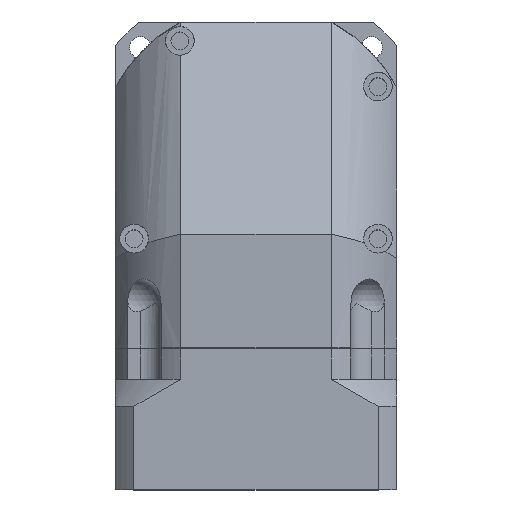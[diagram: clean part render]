
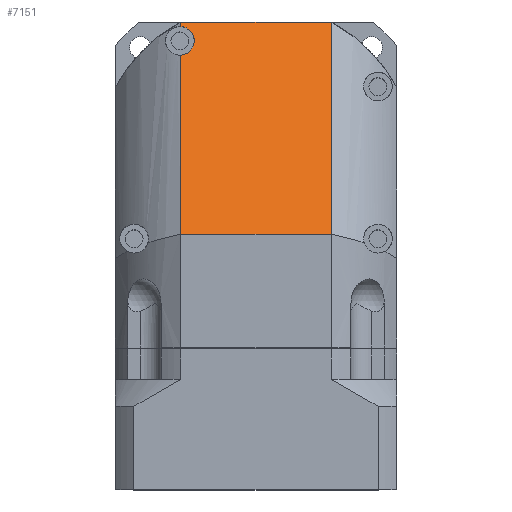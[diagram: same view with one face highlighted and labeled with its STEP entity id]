
A CAD part, top view. The second image highlights one B-rep face of the part: STEP entity #7151.
In plain terms, the highlighted planar face has unit normal (0, 0.643, 0.766) as drawn and (-0.766, -0.643, 0) by its records, which use the part's own axes.
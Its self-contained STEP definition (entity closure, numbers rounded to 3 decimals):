
#2147=DIRECTION('',(0.,0.,-1.));
#2148=VECTOR('',#2147,75.875);
#2149=CARTESIAN_POINT('',(19.,-71.,37.937));
#2150=LINE('',#2149,#2148);
#2504=CARTESIAN_POINT('',(19.,-71.,37.937));
#3230=DIRECTION('',(0.,0.,1.));
#3231=VECTOR('',#3230,75.875);
#3232=CARTESIAN_POINT('',(-71.,36.258,-37.937));
#3233=LINE('',#3232,#3231);
#3234=CARTESIAN_POINT('',(4.945,-54.25,37.937));
#3235=CARTESIAN_POINT('',(4.96,-54.268,37.655));
#3236=CARTESIAN_POINT('',(4.992,-54.306,37.386));
#3237=CARTESIAN_POINT('',(5.055,-54.381,36.931));
#3238=CARTESIAN_POINT('',(5.134,-54.476,36.548));
#3239=CARTESIAN_POINT('',(5.229,-54.589,36.167));
#3240=CARTESIAN_POINT('',(5.356,-54.739,35.744));
#3241=CARTESIAN_POINT('',(5.514,-54.928,35.309));
#3242=CARTESIAN_POINT('',(5.703,-55.154,34.874));
#3243=CARTESIAN_POINT('',(5.893,-55.38,34.499));
#3244=CARTESIAN_POINT('',(6.146,-55.681,34.059));
#3245=CARTESIAN_POINT('',(6.462,-56.058,33.594));
#3246=CARTESIAN_POINT('',(6.842,-56.51,33.132));
#3247=CARTESIAN_POINT('',(7.221,-56.962,32.742));
#3248=CARTESIAN_POINT('',(7.6,-57.414,32.41));
#3249=CARTESIAN_POINT('',(8.106,-58.017,32.035));
#3250=CARTESIAN_POINT('',(8.738,-58.771,31.672));
#3251=CARTESIAN_POINT('',(9.497,-59.675,31.378));
#3252=CARTESIAN_POINT('',(10.256,-60.579,31.207));
#3253=CARTESIAN_POINT('',(11.015,-61.483,31.15));
#3254=CARTESIAN_POINT('',(11.773,-62.388,31.207));
#3255=CARTESIAN_POINT('',(12.532,-63.292,31.378));
#3256=CARTESIAN_POINT('',(13.291,-64.196,31.672));
#3257=CARTESIAN_POINT('',(13.923,-64.95,32.035));
#3258=CARTESIAN_POINT('',(14.429,-65.553,32.41));
#3259=CARTESIAN_POINT('',(14.808,-66.005,32.742));
#3260=CARTESIAN_POINT('',(15.188,-66.457,33.132));
#3261=CARTESIAN_POINT('',(15.567,-66.909,33.594));
#3262=CARTESIAN_POINT('',(15.883,-67.286,34.059));
#3263=CARTESIAN_POINT('',(16.136,-67.587,34.499));
#3264=CARTESIAN_POINT('',(16.326,-67.813,34.874));
#3265=CARTESIAN_POINT('',(16.516,-68.039,35.309));
#3266=CARTESIAN_POINT('',(16.674,-68.228,35.744));
#3267=CARTESIAN_POINT('',(16.8,-68.378,36.167));
#3268=CARTESIAN_POINT('',(16.895,-68.491,36.548));
#3269=CARTESIAN_POINT('',(16.974,-68.586,36.931));
#3270=CARTESIAN_POINT('',(17.037,-68.661,37.386));
#3271=CARTESIAN_POINT('',(17.069,-68.699,37.655));
#3272=CARTESIAN_POINT('',(17.085,-68.717,37.937));
#3274=DIRECTION('',(0.643,-0.766,0.));
#3275=VECTOR('',#3274,2.98);
#3276=CARTESIAN_POINT('',(17.085,-68.717,37.937));
#3277=LINE('',#3276,#3275);
#3278=DIRECTION('',(-0.643,0.766,0.));
#3279=VECTOR('',#3278,140.015);
#3280=CARTESIAN_POINT('',(19.,-71.,-37.937));
#3281=LINE('',#3280,#3279);
#3282=DIRECTION('',(0.643,-0.766,0.));
#3283=VECTOR('',#3282,118.149);
#3284=CARTESIAN_POINT('',(-71.,36.258,37.937));
#3285=LINE('',#3284,#3283);
#5537=VERTEX_POINT('',#3234);
#5538=VERTEX_POINT('',#3272);
#5579=VERTEX_POINT('',#2504);
#5584=CARTESIAN_POINT('',(19.,-71.,-37.937));
#5585=CARTESIAN_POINT('',(-71.,36.258,-37.937));
#5586=VERTEX_POINT('',#5584);
#5587=VERTEX_POINT('',#5585);
#5588=CARTESIAN_POINT('',(-71.,36.258,37.937));
#5589=VERTEX_POINT('',#5588);
#7134=CARTESIAN_POINT('',(19.,-71.,99.));
#7135=DIRECTION('',(0.766,0.643,0.));
#7136=DIRECTION('',(-0.643,0.766,0.));
#7137=AXIS2_PLACEMENT_3D('',#7134,#7135,#7136);
#7138=PLANE('',#7137);
#7140=ORIENTED_EDGE('',*,*,#7139,.T.);
#7142=ORIENTED_EDGE('',*,*,#7141,.T.);
#7143=ORIENTED_EDGE('',*,*,#5677,.T.);
#7145=ORIENTED_EDGE('',*,*,#7144,.T.);
#7146=ORIENTED_EDGE('',*,*,#7129,.T.);
#7148=ORIENTED_EDGE('',*,*,#7147,.T.);
#7149=EDGE_LOOP('',(#7140,#7142,#7143,#7145,#7146,#7148));
#7150=FACE_OUTER_BOUND('',#7149,.F.);
#7151=ADVANCED_FACE('',(#7150),#7138,.F.);
#3273=B_SPLINE_CURVE_WITH_KNOTS('',3,(#3234,#3235,#3236,#3237,#3238,#3239,#3240,
#3241,#3242,#3243,#3244,#3245,#3246,#3247,#3248,#3249,#3250,#3251,#3252,#3253,
#3254,#3255,#3256,#3257,#3258,#3259,#3260,#3261,#3262,#3263,#3264,#3265,#3266,
#3267,#3268,#3269,#3270,#3271,#3272),.UNSPECIFIED.,.F.,.F.,(4,1,1,1,1,1,1,1,1,1,
1,1,1,1,1,1,1,1,1,1,1,1,1,1,1,1,1,1,1,1,1,1,1,1,1,1,4),(0.,0.004,
0.008,0.016,0.023,0.031,0.047,0.063,0.078,0.094,
0.125,0.156,0.188,0.219,0.25,0.313,0.375,0.438,0.5,
0.563,0.625,0.688,0.75,0.781,0.813,0.844,0.875,0.906,
0.922,0.938,0.953,0.969,0.977,0.984,0.992,
0.996,1.),.UNSPECIFIED.);
#5677=EDGE_CURVE('',#5579,#5586,#2150,.T.);
#7129=EDGE_CURVE('',#5587,#5589,#3233,.T.);
#7139=EDGE_CURVE('',#5537,#5538,#3273,.T.);
#7141=EDGE_CURVE('',#5538,#5579,#3277,.T.);
#7144=EDGE_CURVE('',#5586,#5587,#3281,.T.);
#7147=EDGE_CURVE('',#5589,#5537,#3285,.T.);
